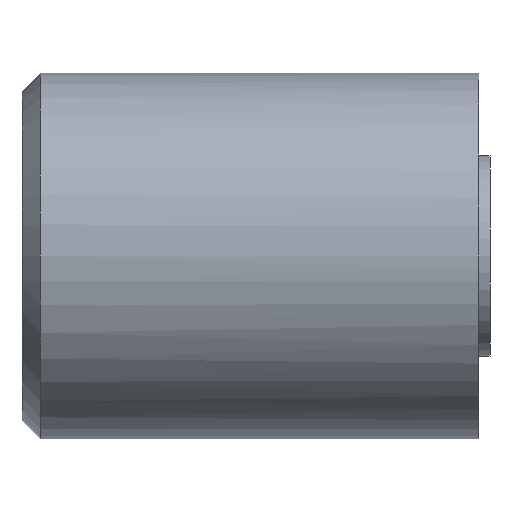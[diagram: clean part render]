
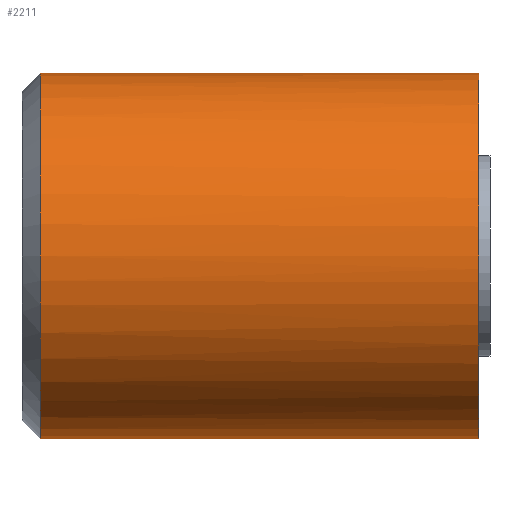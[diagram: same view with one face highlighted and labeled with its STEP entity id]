
A CAD part, front view. The second image highlights one B-rep face of the part: STEP entity #2211.
In plain terms, the highlighted cylindrical face has radius 4 mm (diameter 8 mm), a partial arc.
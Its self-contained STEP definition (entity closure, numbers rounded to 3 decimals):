
#124=CARTESIAN_POINT('Vertex',(0.,0.,-4.)) ;
#130=CARTESIAN_POINT('Control Point',(0.,-4.,0.)) ;
#131=CARTESIAN_POINT('Control Point',(0.,-4.,-0.392)) ;
#132=CARTESIAN_POINT('Control Point',(0.,-3.952,-0.784)) ;
#133=CARTESIAN_POINT('Control Point',(0.,-3.856,-1.168)) ;
#134=CARTESIAN_POINT('Control Point',(0.,-3.572,-1.905)) ;
#135=CARTESIAN_POINT('Control Point',(0.,-3.118,-2.551)) ;
#136=CARTESIAN_POINT('Control Point',(0.,-2.853,-2.845)) ;
#137=CARTESIAN_POINT('Control Point',(0.,-2.256,-3.361)) ;
#138=CARTESIAN_POINT('Control Point',(0.,-1.551,-3.718)) ;
#139=CARTESIAN_POINT('Control Point',(0.,-1.179,-3.853)) ;
#140=CARTESIAN_POINT('Control Point',(0.,-0.714,-3.958)) ;
#141=CARTESIAN_POINT('Control Point',(0.,-0.243,-3.994)) ;
#142=CARTESIAN_POINT('Control Point',(0.,-0.162,-3.998)) ;
#143=CARTESIAN_POINT('Control Point',(0.,-0.081,-4.)) ;
#144=CARTESIAN_POINT('Control Point',(0.,0.,-4.)) ;
#145=CARTESIAN_POINT('Vertex',(0.,-4.,0.)) ;
#149=CARTESIAN_POINT('Control Point',(0.,0.,4.)) ;
#150=CARTESIAN_POINT('Control Point',(0.,-0.311,4.)) ;
#151=CARTESIAN_POINT('Control Point',(0.,-0.622,3.97)) ;
#152=CARTESIAN_POINT('Control Point',(0.,-0.929,3.909)) ;
#153=CARTESIAN_POINT('Control Point',(0.,-1.606,3.706)) ;
#154=CARTESIAN_POINT('Control Point',(0.,-2.223,3.36)) ;
#155=CARTESIAN_POINT('Control Point',(0.,-2.542,3.125)) ;
#156=CARTESIAN_POINT('Control Point',(0.,-3.117,2.583)) ;
#157=CARTESIAN_POINT('Control Point',(0.,-3.543,1.919)) ;
#158=CARTESIAN_POINT('Control Point',(0.,-3.714,1.562)) ;
#159=CARTESIAN_POINT('Control Point',(0.,-3.892,1.033)) ;
#160=CARTESIAN_POINT('Control Point',(0.,-3.975,0.485)) ;
#161=CARTESIAN_POINT('Control Point',(0.,-3.992,0.323)) ;
#162=CARTESIAN_POINT('Control Point',(0.,-4.,0.162)) ;
#163=CARTESIAN_POINT('Control Point',(0.,-4.,0.)) ;
#164=CARTESIAN_POINT('Vertex',(0.,0.,4.)) ;
#2145=CARTESIAN_POINT('Line Origine',(10.,0.,4.)) ;
#2149=CARTESIAN_POINT('Vertex',(9.6,0.,4.)) ;
#2166=CARTESIAN_POINT('Vertex',(9.6,0.,-4.)) ;
#2169=CARTESIAN_POINT('Line Origine',(10.,0.,-4.)) ;
#2183=CARTESIAN_POINT('Axis2P3D Location',(10.,0.,0.)) ;
#2188=CARTESIAN_POINT('Axis2P3D Location',(9.6,0.,0.)) ;
#2192=CARTESIAN_POINT('Vertex',(9.6,-4.,0.)) ;
#2196=CARTESIAN_POINT('Control Point',(9.6,0.,4.)) ;
#2197=CARTESIAN_POINT('Control Point',(9.6,-1.257,4.)) ;
#2198=CARTESIAN_POINT('Control Point',(9.6,-2.514,3.508)) ;
#2199=CARTESIAN_POINT('Control Point',(9.6,-3.508,2.514)) ;
#2200=CARTESIAN_POINT('Control Point',(9.6,-4.,1.257)) ;
#2201=CARTESIAN_POINT('Control Point',(9.6,-4.,0.)) ;
#2146=DIRECTION('Vector Direction',(-1.,0.,0.)) ;
#2170=DIRECTION('Vector Direction',(-1.,0.,0.)) ;
#2184=DIRECTION('Axis2P3D Direction',(-1.,-0.,-0.)) ;
#2185=DIRECTION('Axis2P3D XDirection',(0.,0.,-1.)) ;
#2189=DIRECTION('Axis2P3D Direction',(-1.,-0.,-0.)) ;
#2186=AXIS2_PLACEMENT_3D('Cylinder Axis2P3D',#2183,#2184,#2185) ;
#2190=AXIS2_PLACEMENT_3D('Circle Axis2P3D',#2188,#2189,$) ;
#2204=ORIENTED_EDGE('',*,*,#2173,.T.) ;
#2205=ORIENTED_EDGE('',*,*,#2194,.F.) ;
#2206=ORIENTED_EDGE('',*,*,#2202,.F.) ;
#2207=ORIENTED_EDGE('',*,*,#2151,.T.) ;
#2208=ORIENTED_EDGE('',*,*,#166,.T.) ;
#2209=ORIENTED_EDGE('',*,*,#147,.T.) ;
#2147=VECTOR('Line Direction',#2146,1.) ;
#2171=VECTOR('Line Direction',#2170,1.) ;
#2211=ADVANCED_FACE('D374-8-A-DM-FA',(#2210),#2187,.T.) ;
#129=B_SPLINE_CURVE_WITH_KNOTS('',5,(#130,#131,#132,#133,#134,#135,#136,#137,#138,#139,#140,#141,#142,#143,#144),.UNSPECIFIED.,.F.,.U.,(6,3,3,3,6),(0.,2.771,5.543,8.314,8.886),.UNSPECIFIED.) ;
#148=B_SPLINE_CURVE_WITH_KNOTS('',5,(#149,#150,#151,#152,#153,#154,#155,#156,#157,#158,#159,#160,#161,#162,#163),.UNSPECIFIED.,.F.,.U.,(6,3,3,3,6),(8.886,11.085,13.856,16.628,17.77),.UNSPECIFIED.) ;
#2195=B_SPLINE_CURVE_WITH_KNOTS('',5,(#2196,#2197,#2198,#2199,#2200,#2201),.UNSPECIFIED.,.F.,.U.,(6,6),(-3.142,3.142),.UNSPECIFIED.) ;
#2191=CIRCLE('generated circle',#2190,4.) ;
#2187=CYLINDRICAL_SURFACE('generated cylinder',#2186,4.) ;
#147=EDGE_CURVE('',#146,#125,#129,.T.) ;
#166=EDGE_CURVE('',#165,#146,#148,.T.) ;
#2151=EDGE_CURVE('',#2150,#165,#2148,.T.) ;
#2173=EDGE_CURVE('',#125,#2167,#2172,.F.) ;
#2194=EDGE_CURVE('',#2193,#2167,#2191,.F.) ;
#2202=EDGE_CURVE('',#2150,#2193,#2195,.T.) ;
#2203=EDGE_LOOP('',(#2204,#2205,#2206,#2207,#2208,#2209)) ;
#2210=FACE_OUTER_BOUND('',#2203,.T.) ;
#2148=LINE('Line',#2145,#2147) ;
#2172=LINE('Line',#2169,#2171) ;
#125=VERTEX_POINT('',#124) ;
#146=VERTEX_POINT('',#145) ;
#165=VERTEX_POINT('',#164) ;
#2150=VERTEX_POINT('',#2149) ;
#2167=VERTEX_POINT('',#2166) ;
#2193=VERTEX_POINT('',#2192) ;
